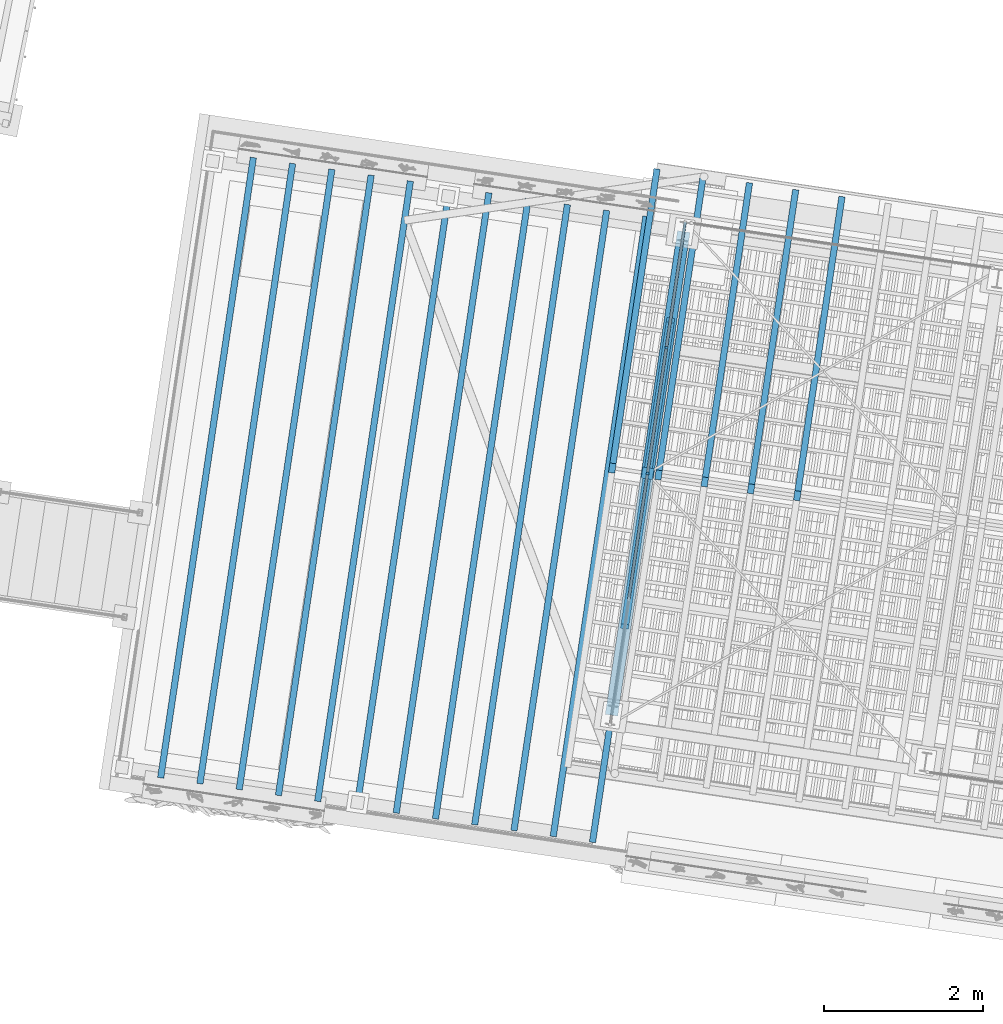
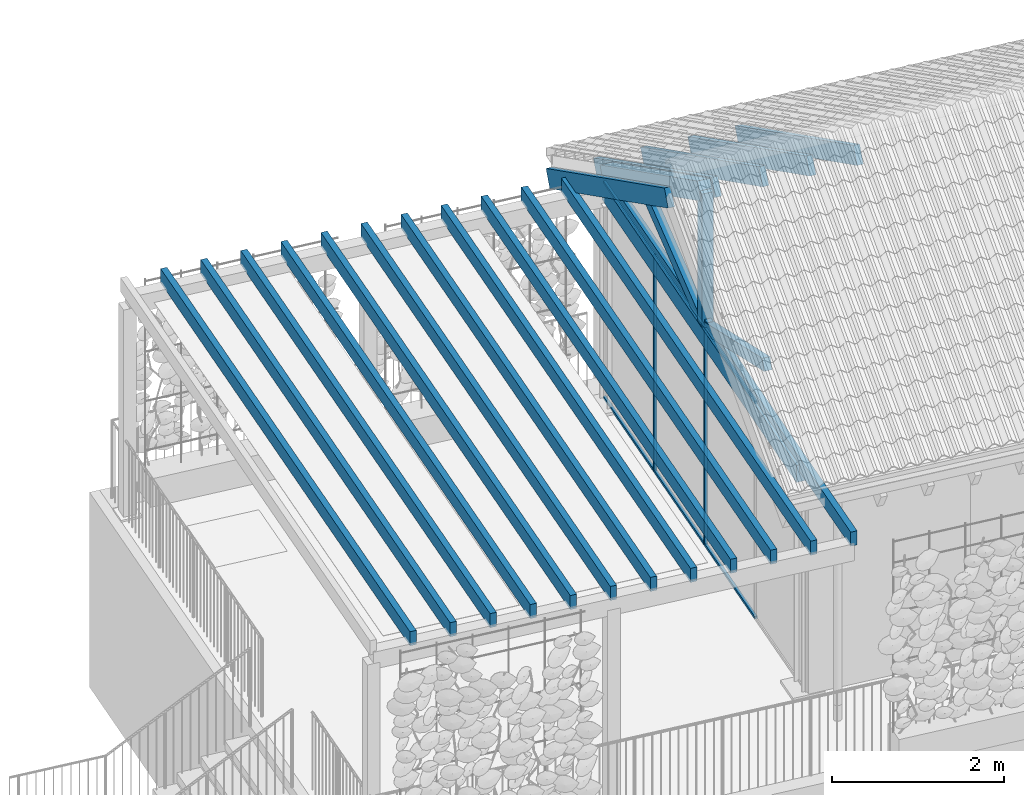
# One storey, part 25 of 128: 31 members, 1 beam, 2 elements without a shape of their own.
"""IFC4 building model written with IfcOpenShell, lengths in metres."""

import ifcopenshell
import ifcopenshell.guid

model = None  # the IFC model being written
_history = None  # IfcOwnerHistory: only IFC2X3 demands one
_inside = {}  # id of a spatial element -> (the spatial element, [elements in it])
_under = {}  # id of a project, library or spatial element -> (it, [spatial elements below it])
_declared = {}  # id of a project -> (the project, [libraries it declares])
_typed = {}  # id of a type object -> (the type object, [elements of that type])
_made_of = {}  # id of a material, layer set ... -> (it, [elements and type objects made of it])


def new_model(schema):
    """Start an empty IFC model of exactly this schema.

    Asked for "IFC4X3", IfcOpenShell would pick the latest addendum, in which some entities
    have other attributes; the version numbers below select the first issue.
    IFC2X3 requires an IfcOwnerHistory on every rooted entity: one is made here for all.
    """
    global model, _history
    if schema == "IFC4X3":
        model = ifcopenshell.file(schema_version=(4, 3, 0, 0))
    else:
        model = ifcopenshell.file(schema=schema)
    _inside.clear()
    _under.clear()
    _declared.clear()
    _typed.clear()
    _made_of.clear()
    _history = None
    if model.schema == "IFC2X3":
        org = make("IfcOrganization", Name="unknown")
        user = make(
            "IfcPersonAndOrganization",
            ThePerson=make("IfcPerson", FamilyName="unknown"),
            TheOrganization=org,
        )
        app = make(
            "IfcApplication",
            ApplicationDeveloper=org,
            Version="unknown",
            ApplicationFullName="unknown",
            ApplicationIdentifier="unknown",
        )
        _history = make(
            "IfcOwnerHistory",
            OwningUser=user,
            OwningApplication=app,
            ChangeAction="ADDED",
            CreationDate=0,
        )
    return model


def make(cls, **values):
    """One entity of the class cls with the attributes given. An attribute that is None is left unset."""
    return model.create_entity(
        cls, **{name: value for name, value in values.items() if value is not None}
    )


def rooted(cls, **values):
    """An entity with a GlobalId (a new one), such as an element, a storey or a relation."""
    return make(cls, GlobalId=ifcopenshell.guid.new(), OwnerHistory=_history, **values)


def si_unit(unit_type, name, prefix=None):
    """IfcSIUnit, for example si_unit("LENGTHUNIT", "METRE", prefix="MILLI")."""
    return make("IfcSIUnit", UnitType=unit_type, Prefix=prefix, Name=name)


def assignment(units):
    """IfcUnitAssignment: the units of a project."""
    return None if units is None else make("IfcUnitAssignment", Units=units)


def point(xyz):
    """IfcCartesianPoint."""
    return None if xyz is None else make("IfcCartesianPoint", Coordinates=xyz)


def direction(xyz):
    """IfcDirection."""
    return None if xyz is None else make("IfcDirection", DirectionRatios=xyz)


def frame(location, z_axis=None, x_axis=None):
    """IfcAxis2Placement3D, a coordinate frame: its origin and axes. An axis left out is left unset."""
    return make(
        "IfcAxis2Placement3D",
        Location=point(location),
        Axis=direction(z_axis),
        RefDirection=direction(x_axis),
    )


def origin_with_axes():
    """The frame at (0, 0, 0) with the z axis (0, 0, 1) and the x axis (1, 0, 0) written out."""
    return frame((0.0, 0.0, 0.0), z_axis=(0.0, 0.0, 1.0), x_axis=(1.0, 0.0, 0.0))


def place(relative_to, where):
    """IfcLocalPlacement: puts the frame where relative to a parent placement (None: the world)."""
    return make(
        "IfcLocalPlacement", PlacementRelTo=relative_to, RelativePlacement=where
    )


def context(
    kind, dimensions, precision=None, world=None, true_north=None, identifier=None
):
    """IfcGeometricRepresentationContext, for example the 3D "Model" context."""
    return make(
        "IfcGeometricRepresentationContext",
        ContextIdentifier=identifier,
        ContextType=kind,
        CoordinateSpaceDimension=dimensions,
        Precision=precision,
        WorldCoordinateSystem=world,
        TrueNorth=true_north,
    )


def subcontext(parent, identifier, kind, view, scale=None):
    """IfcGeometricRepresentationSubContext, for example "Body" below "Model"."""
    return make(
        "IfcGeometricRepresentationSubContext",
        ContextIdentifier=identifier,
        ContextType=kind,
        ParentContext=parent,
        TargetScale=scale,
        TargetView=view,
    )


def project(units=None, contexts=None):
    """IfcProject with its units and contexts."""
    return rooted(
        "IfcProject",
        Name="project",
        RepresentationContexts=contexts,
        UnitsInContext=assignment(units),
    )


def spatial(cls, under=None, at=None, **own):
    """A site, building, storey or space (cls), placed at a placement, below another one or the project."""
    s = rooted(cls, ObjectPlacement=at, **own)
    if under is not None:
        _under.setdefault(under.id(), (under, []))[1].append(s)
    return s


def profile(cls, at=None, kind="AREA", **sizes):
    """A parametric profile (cls). Its sizes go by their IFC names, for example OverallWidth=200.0."""
    return make(cls, ProfileType=kind, Position=at, **sizes)


def rectangle(**sizes):
    """IfcRectangleProfileDef."""
    return profile("IfcRectangleProfileDef", **sizes)


def extrude(swept, where, along, depth):
    """IfcExtrudedAreaSolid: the profile swept, set in the frame where, extruded along a direction by depth."""
    return make(
        "IfcExtrudedAreaSolid",
        SweptArea=swept,
        Position=where,
        ExtrudedDirection=direction(along),
        Depth=depth,
    )


def shape(context_of_items, identifier, shape_type, items):
    """IfcShapeRepresentation: the items that make up one representation, for example the "Body"."""
    return make(
        "IfcShapeRepresentation",
        ContextOfItems=context_of_items,
        RepresentationIdentifier=identifier,
        RepresentationType=shape_type,
        Items=items,
    )


def material(Name=None, Category=None):
    """IfcMaterial."""
    return make("IfcMaterial", Name=Name, Category=Category)


def material_profile(
    of_material, cross_section, Name=None, Category=None, Priority=None
):
    """IfcMaterialProfile: a cross section and its material."""
    return make(
        "IfcMaterialProfile",
        Name=Name,
        Material=of_material,
        Profile=cross_section,
        Priority=Priority,
        Category=Category,
    )


def profile_set(profiles, Name=None, composite=None):
    """IfcMaterialProfileSet."""
    return make(
        "IfcMaterialProfileSet",
        Name=Name,
        MaterialProfiles=profiles,
        CompositeProfile=composite,
    )


def profile_usage(for_profile_set, cardinal=None, extent=None):
    """IfcMaterialProfileSetUsage: how a profile set lies along its element."""
    return make(
        "IfcMaterialProfileSetUsage",
        ForProfileSet=for_profile_set,
        CardinalPoint=cardinal,
        ReferenceExtent=extent,
    )


def made_of(thing, what):
    """Note that an element or type object is made of a material, layer set ...; save() writes the relation."""
    if what is not None:
        _made_of.setdefault(what.id(), (what, []))[1].append(thing)
    return thing


def type_object(cls, material=None, **own):
    """A type object (cls), such as IfcWallType, which elements share."""
    return made_of(rooted(cls, **own), material)


def element(
    cls,
    number,
    at=None,
    inside=None,
    cuts=None,
    type_object=None,
    material=None,
    context=None,
    identifier="Body",
    shape_type=None,
    held_by="IfcProductDefinitionShape",
    body=None,
    shapes=None,
    **own,
):
    """One element of the class cls, such as IfcWall. Its Tag is "e" and its number.

    at: its placement. inside: the storey or other place that contains it. cuts: it is an
    opening in that element (IfcRelVoidsElement). A single representation is given by context,
    identifier, shape_type and body (its items); several are given by shapes. held_by: the class
    of the entity that holds the representations. save() writes the other relations.
    """
    e = rooted(cls, Tag="e%d" % number, ObjectPlacement=at, **own)
    if body is not None:
        shapes = [shape(context, identifier, shape_type, body)]
    if shapes is not None:
        e.Representation = make(held_by, Representations=shapes)
    if inside is not None:
        _inside.setdefault(inside.id(), (inside, []))[1].append(e)
    if cuts is not None:
        rooted(
            "IfcRelVoidsElement", RelatingBuildingElement=cuts, RelatedOpeningElement=e
        )
    if type_object is not None:
        _typed.setdefault(type_object.id(), (type_object, []))[1].append(e)
    return made_of(e, material)


def aggregate(whole, parts):
    """IfcRelAggregates: a whole, such as a stair, and the parts it consists of."""
    return rooted("IfcRelAggregates", RelatingObject=whole, RelatedObjects=parts)


def save(model, path):
    """Write the relations noted so far, then the file.

    IfcRelAggregates (storeys below a building ...), IfcRelContainedInSpatialStructure (elements
    in a storey), IfcRelDefinesByType, IfcRelAssociatesMaterial and IfcRelDeclares: one each for
    every whole, place, type object, material and project.
    """
    for whole, parts in _under.values():
        aggregate(whole, parts)
    for where, things in _inside.values():
        rooted(
            "IfcRelContainedInSpatialStructure",
            RelatedElements=things,
            RelatingStructure=where,
        )
    for kind, things in _typed.values():
        rooted("IfcRelDefinesByType", RelatedObjects=things, RelatingType=kind)
    for what, things in _made_of.values():
        rooted("IfcRelAssociatesMaterial", RelatedObjects=things, RelatingMaterial=what)
    for by, libraries in _declared.values():
        rooted("IfcRelDeclares", RelatingContext=by, RelatedDefinitions=libraries)
    model.write(path)


model = new_model("IFC4")

# Units and contexts
model_context = context("Model", 3, precision=1e-05, world=origin_with_axes(), true_north=direction((0.0, 1.0)))
body_context = subcontext(model_context, "Body", "Model", "MODEL_VIEW")
ifc_project = project(units=[si_unit("VOLUMEUNIT", "CUBIC_METRE"), si_unit("LENGTHUNIT", "METRE"), si_unit("AREAUNIT", "SQUARE_METRE")], contexts=[model_context])

# Site, building, storey
site_placement = place(None, origin_with_axes())
site = spatial("IfcSite", under=ifc_project, at=site_placement, Name="Lares · Rua das Mercês · artigo 4771")
building_placement = place(site_placement, frame((15.0, 9.7, 13.9), z_axis=(0.0, 0.0, 1.0), x_axis=(0.989015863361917, -0.147809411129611, 0.0)))
building = spatial("IfcBuilding", under=site, at=building_placement, Name="Casa Sobreposta")
storey_placement = place(building_placement, origin_with_axes())
storey = spatial("IfcBuildingStorey", under=building, at=storey_placement, Name="00 · Habitação e estacionamento", Elevation=13.9)

# Members
ifc_material_1 = material(Name="Aço pintado / Stahl lackiert", Category="steel")
ifc_material_profile_1 = material_profile(ifc_material_1, rectangle(XDim=0.035, YDim=0.035))
ifc_profile_set_1 = profile_set([ifc_material_profile_1], Name="R0.035")
ifc_profile_usage_1 = profile_usage(ifc_profile_set_1)
member_type_1 = type_object("IfcMemberType", Name="R0.035 / steel", PredefinedType="NOTDEFINED", material=ifc_profile_set_1)
member_1_placement = place(storey_placement, frame((0.0, 3.2, 0.0), z_axis=(0.0, 0.0, 1.0), x_axis=(1.0, 0.0, 0.0)))
element("IfcMember", 1, at=member_1_placement, inside=storey, type_object=member_type_1, material=ifc_profile_usage_1, context=body_context, shape_type="SweptSolid", body=[
    extrude(rectangle(XDim=0.035, YDim=0.035), origin_with_axes(), (0.0, 0.0, 1.0), 3.05),
])
ifc_profile_usage_2 = profile_usage(ifc_profile_set_1)
member_2_placement = place(storey_placement, frame((0.0, 1.6, 0.0), z_axis=(0.0, 1.0, 0.0), x_axis=(1.0, 0.0, 0.0)))
element("IfcMember", 2, at=member_2_placement, inside=storey, type_object=member_type_1, material=ifc_profile_usage_2, Name="Fachada poente integralmente envidraçada · módulo 2 · travessa", context=body_context, shape_type="SweptSolid", body=[
    extrude(rectangle(XDim=0.035, YDim=0.035), origin_with_axes(), (0.0, 0.0, 1.0), 1.6),
])
ifc_profile_usage_3 = profile_usage(ifc_profile_set_1)
member_3_placement = place(storey_placement, frame((0.0, 1.6, 3.05), z_axis=(0.0, 1.0, 0.0), x_axis=(1.0, 0.0, 0.0)))
element("IfcMember", 3, at=member_3_placement, inside=storey, type_object=member_type_1, material=ifc_profile_usage_3, Name="Fachada poente integralmente envidraçada · módulo 2 · travessa", context=body_context, shape_type="SweptSolid", body=[
    extrude(rectangle(XDim=0.035, YDim=0.035), origin_with_axes(), (0.0, 0.0, 1.0), 1.6),
])
ifc_profile_usage_4 = profile_usage(ifc_profile_set_1)
member_4_placement = place(storey_placement, frame((0.0, 3.2, 0.0), z_axis=(0.0, 0.0, 1.0), x_axis=(1.0, 0.0, 0.0)))
element("IfcMember", 4, at=member_4_placement, inside=storey, type_object=member_type_1, material=ifc_profile_usage_4, context=body_context, shape_type="SweptSolid", body=[
    extrude(rectangle(XDim=0.035, YDim=0.035), origin_with_axes(), (0.0, 0.0, 1.0), 3.05),
])
ifc_profile_usage_5 = profile_usage(ifc_profile_set_1)
member_5_placement = place(storey_placement, frame((0.0, 4.8, 0.0), z_axis=(0.0, 0.0, 1.0), x_axis=(1.0, 0.0, 0.0)))
element("IfcMember", 5, at=member_5_placement, inside=storey, type_object=member_type_1, material=ifc_profile_usage_5, context=body_context, shape_type="SweptSolid", body=[
    extrude(rectangle(XDim=0.035, YDim=0.035), origin_with_axes(), (0.0, 0.0, 1.0), 3.05),
])
ifc_profile_usage_6 = profile_usage(ifc_profile_set_1)
member_6_placement = place(storey_placement, frame((0.0, 3.2, 0.0), z_axis=(0.0, 1.0, 0.0), x_axis=(1.0, 0.0, 0.0)))
element("IfcMember", 6, at=member_6_placement, inside=storey, type_object=member_type_1, material=ifc_profile_usage_6, Name="Fachada poente integralmente envidraçada · módulo 3 · travessa", context=body_context, shape_type="SweptSolid", body=[
    extrude(rectangle(XDim=0.035, YDim=0.035), origin_with_axes(), (0.0, 0.0, 1.0), 1.6),
])
ifc_profile_usage_7 = profile_usage(ifc_profile_set_1)
member_7_placement = place(storey_placement, frame((0.0, 3.2, 3.05), z_axis=(0.0, 1.0, 0.0), x_axis=(1.0, 0.0, 0.0)))
element("IfcMember", 7, at=member_7_placement, inside=storey, type_object=member_type_1, material=ifc_profile_usage_7, Name="Fachada poente integralmente envidraçada · módulo 3 · travessa", context=body_context, shape_type="SweptSolid", body=[
    extrude(rectangle(XDim=0.035, YDim=0.035), origin_with_axes(), (0.0, 0.0, 1.0), 1.6),
])
ifc_profile_usage_8 = profile_usage(ifc_profile_set_1)
member_8_placement = place(storey_placement, frame((0.0, 4.8, 0.0), z_axis=(0.0, 0.0, 1.0), x_axis=(1.0, 0.0, 0.0)))
element("IfcMember", 8, at=member_8_placement, inside=storey, type_object=member_type_1, material=ifc_profile_usage_8, context=body_context, shape_type="SweptSolid", body=[
    extrude(rectangle(XDim=0.035, YDim=0.035), origin_with_axes(), (0.0, 0.0, 1.0), 3.05),
])
ifc_profile_usage_9 = profile_usage(ifc_profile_set_1)
member_9_placement = place(storey_placement, frame((0.0, 4.8, 0.0), z_axis=(0.0, 1.0, 0.0), x_axis=(1.0, 0.0, 0.0)))
element("IfcMember", 9, at=member_9_placement, inside=storey, type_object=member_type_1, material=ifc_profile_usage_9, Name="Fachada poente integralmente envidraçada · módulo 4 · travessa", context=body_context, shape_type="SweptSolid", body=[
    extrude(rectangle(XDim=0.035, YDim=0.035), origin_with_axes(), (0.0, 0.0, 1.0), 1.6),
])
ifc_profile_usage_10 = profile_usage(ifc_profile_set_1)
member_10_placement = place(storey_placement, frame((0.0, 4.8, 3.05), z_axis=(0.0, 1.0, 0.0), x_axis=(1.0, 0.0, 0.0)))
element("IfcMember", 10, at=member_10_placement, inside=storey, type_object=member_type_1, material=ifc_profile_usage_10, Name="Fachada poente integralmente envidraçada · módulo 4 · travessa", context=body_context, shape_type="SweptSolid", body=[
    extrude(rectangle(XDim=0.035, YDim=0.035), origin_with_axes(), (0.0, 0.0, 1.0), 1.6),
])

# Roof, beam, members
ifc_material_2 = material(Name="Madeira / Bauholz", Category="wood")
roof_placement = place(storey_placement, origin_with_axes())
roof = element("IfcRoof", 11, at=roof_placement, inside=storey, material=ifc_material_2, Name="Cobertura de telha · duas águas 30 graus", PredefinedType="GABLE_ROOF")
ifc_material_profile_2 = material_profile(ifc_material_2, rectangle(XDim=0.16, YDim=0.24))
ifc_profile_set_2 = profile_set([ifc_material_profile_2], Name="TIMBER0.160x0.240")
ifc_profile_usage_11 = profile_usage(ifc_profile_set_2)
beam_type = type_object("IfcBeamType", Name="TIMBER0.160x0.240 / timber", PredefinedType="NOTDEFINED", material=ifc_profile_set_2)
beam_placement = place(roof_placement, frame((0.0, 0.12, 3.02), z_axis=(0.0, 1.0, 0.0), x_axis=(1.0, 0.0, 0.0)))
beam = element("IfcBeam", 12, at=beam_placement, type_object=beam_type, material=ifc_profile_usage_11, Name="Tesoura · tirante inferior", context=body_context, shape_type="SweptSolid", body=[
    extrude(rectangle(XDim=0.16, YDim=0.24), origin_with_axes(), (0.0, 0.0, 1.0), 6.16),
])
ifc_material_profile_3 = material_profile(ifc_material_2, rectangle(XDim=0.16, YDim=0.24))
ifc_profile_set_3 = profile_set([ifc_material_profile_3], Name="TIMBER0.160x0.240")
ifc_profile_usage_12 = profile_usage(ifc_profile_set_3)
member_type_2 = type_object("IfcMemberType", Name="TIMBER0.160x0.240 / timber", PredefinedType="NOTDEFINED", material=ifc_profile_set_3)
member_11_placement = place(roof_placement, frame((0.0, 3.2, 5.0225208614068), z_axis=(0.0, 0.866025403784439, -0.5), x_axis=(1.0, 0.0, 0.0)))
member_11 = element("IfcMember", 13, at=member_11_placement, type_object=member_type_2, material=ifc_profile_usage_12, Name="Tesoura · perna", context=body_context, shape_type="SweptSolid", body=[
    extrude(rectangle(XDim=0.16, YDim=0.24), origin_with_axes(), (0.0, 0.0, 1.0), 3.5564776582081),
])
ifc_material_profile_4 = material_profile(ifc_material_2, rectangle(XDim=0.14, YDim=0.14))
ifc_profile_set_4 = profile_set([ifc_material_profile_4], Name="TIMBER0.140x0.140")
ifc_profile_usage_13 = profile_usage(ifc_profile_set_4)
member_type_3 = type_object("IfcMemberType", Name="TIMBER0.140x0.140 / timber", PredefinedType="NOTDEFINED", material=ifc_profile_set_4)
member_12_placement = place(roof_placement, frame((0.0, 3.2, 3.02), z_axis=(0.0, 0.0, 1.0), x_axis=(1.0, 0.0, 0.0)))
member_12 = element("IfcMember", 14, at=member_12_placement, type_object=member_type_3, material=ifc_profile_usage_13, Name="Tesoura · pendural", context=body_context, shape_type="SweptSolid", body=[
    extrude(rectangle(XDim=0.14, YDim=0.14), origin_with_axes(), (0.0, 0.0, 1.0), 2.0025208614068),
])
ifc_material_profile_5 = material_profile(ifc_material_2, rectangle(XDim=0.1, YDim=0.16))
ifc_profile_set_5 = profile_set([ifc_material_profile_5], Name="TIMBER0.100x0.160")
ifc_profile_usage_14 = profile_usage(ifc_profile_set_5)
member_type_4 = type_object("IfcMemberType", Name="TIMBER0.100x0.160 / timber", PredefinedType="NOTDEFINED", material=ifc_profile_set_5)
member_13_placement = place(roof_placement, frame((0.0, 3.2, 3.1), z_axis=(0.0, -0.937832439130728, 0.347088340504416), x_axis=(-1.0, 0.0, 0.0)))
member_13 = element("IfcMember", 15, at=member_13_placement, type_object=member_type_4, material=ifc_profile_usage_14, Name="Tesoura · escora", context=body_context, shape_type="SweptSolid", body=[
    extrude(rectangle(XDim=0.1, YDim=0.16), origin_with_axes(), (0.0, 0.0, 1.0), 2.07926268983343),
])
ifc_profile_usage_15 = profile_usage(ifc_profile_set_5)
member_14_placement = place(roof_placement, frame((0.0, 3.2, 3.1), z_axis=(0.0, 0.937832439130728, 0.347088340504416), x_axis=(1.0, 0.0, 0.0)))
member_14 = element("IfcMember", 16, at=member_14_placement, type_object=member_type_4, material=ifc_profile_usage_15, Name="Tesoura · escora", context=body_context, shape_type="SweptSolid", body=[
    extrude(rectangle(XDim=0.1, YDim=0.16), origin_with_axes(), (0.0, 0.0, 1.0), 2.07926268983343),
])
ifc_material_profile_6 = material_profile(ifc_material_2, rectangle(XDim=0.08, YDim=0.24))
ifc_profile_set_6 = profile_set([ifc_material_profile_6], Name="TIMBER0.080x0.240")
ifc_profile_usage_16 = profile_usage(ifc_profile_set_6)
member_type_5 = type_object("IfcMemberType", Name="TIMBER0.080x0.240 / timber", PredefinedType="NOTDEFINED", material=ifc_profile_set_6)
member_15_placement = place(roof_placement, frame((-0.45, 3.2, 5.0285208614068), z_axis=(0.0, 0.866025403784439, -0.5), x_axis=(1.0, 0.0, 0.0)))
member_15 = element("IfcMember", 17, at=member_15_placement, type_object=member_type_5, material=ifc_profile_usage_16, Name="Cobertura · caibro", context=body_context, shape_type="SweptSolid", body=[
    extrude(rectangle(XDim=0.08, YDim=0.24), origin_with_axes(), (0.0, 0.0, 1.0), 4.33012701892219),
])
ifc_profile_usage_17 = profile_usage(ifc_profile_set_6)
member_16_placement = place(roof_placement, frame((0.139056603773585, 3.2, 5.0285208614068), z_axis=(0.0, 0.866025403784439, -0.5), x_axis=(1.0, 0.0, 0.0)))
member_16 = element("IfcMember", 18, at=member_16_placement, type_object=member_type_5, material=ifc_profile_usage_17, Name="Cobertura · caibro", context=body_context, shape_type="SweptSolid", body=[
    extrude(rectangle(XDim=0.08, YDim=0.24), origin_with_axes(), (0.0, 0.0, 1.0), 4.33012701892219),
])
ifc_profile_usage_18 = profile_usage(ifc_profile_set_6)
member_17_placement = place(roof_placement, frame((0.72811320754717, 3.2, 5.0285208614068), z_axis=(0.0, 0.866025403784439, -0.5), x_axis=(1.0, 0.0, 0.0)))
member_17 = element("IfcMember", 19, at=member_17_placement, type_object=member_type_5, material=ifc_profile_usage_18, Name="Cobertura · caibro", context=body_context, shape_type="SweptSolid", body=[
    extrude(rectangle(XDim=0.08, YDim=0.24), origin_with_axes(), (0.0, 0.0, 1.0), 4.33012701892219),
])
ifc_profile_usage_19 = profile_usage(ifc_profile_set_6)
member_18_placement = place(roof_placement, frame((1.31716981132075, 3.2, 5.0285208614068), z_axis=(0.0, 0.866025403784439, -0.5), x_axis=(1.0, 0.0, 0.0)))
member_18 = element("IfcMember", 20, at=member_18_placement, type_object=member_type_5, material=ifc_profile_usage_19, Name="Cobertura · caibro", context=body_context, shape_type="SweptSolid", body=[
    extrude(rectangle(XDim=0.08, YDim=0.24), origin_with_axes(), (0.0, 0.0, 1.0), 4.33012701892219),
])
ifc_profile_usage_20 = profile_usage(ifc_profile_set_6)
member_19_placement = place(roof_placement, frame((1.90622641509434, 3.2, 5.0285208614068), z_axis=(0.0, 0.866025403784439, -0.5), x_axis=(1.0, 0.0, 0.0)))
member_19 = element("IfcMember", 21, at=member_19_placement, type_object=member_type_5, material=ifc_profile_usage_20, Name="Cobertura · caibro", context=body_context, shape_type="SweptSolid", body=[
    extrude(rectangle(XDim=0.08, YDim=0.24), origin_with_axes(), (0.0, 0.0, 1.0), 4.33012701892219),
])
aggregate(roof, [beam, member_11, member_12, member_13, member_14, member_15, member_16, member_17, member_18, member_19])

# Assembly, members
assembly_placement = place(storey_placement, origin_with_axes())
assembly = element("IfcElementAssembly", 22, at=assembly_placement, inside=storey, Name="Pérgola de madeira · pátio 6 m", ObjectType="TIMBER_PATIO_PERGOLA", PredefinedType="USERDEFINED")
ifc_material_profile_7 = material_profile(ifc_material_2, rectangle(XDim=0.08, YDim=0.2))
ifc_profile_set_7 = profile_set([ifc_material_profile_7], Name="TIMBER0.080x0.200")
ifc_profile_usage_21 = profile_usage(ifc_profile_set_7)
member_type_6 = type_object("IfcMemberType", Name="TIMBER0.080x0.200 / timber", PredefinedType="NOTDEFINED", material=ifc_profile_set_7)
member_20_placement = place(assembly_placement, frame((-5.5, -1.5, 3.14), z_axis=(0.0, 1.0, 0.0), x_axis=(1.0, 0.0, 0.0)))
member_20 = element("IfcMember", 23, at=member_20_placement, type_object=member_type_6, material=ifc_profile_usage_21, Name="Pérgola · travessa", context=body_context, shape_type="SweptSolid", body=[
    extrude(rectangle(XDim=0.08, YDim=0.2), origin_with_axes(), (0.0, 0.0, 1.0), 7.9),
])
ifc_profile_usage_22 = profile_usage(ifc_profile_set_7)
member_21_placement = place(assembly_placement, frame((-5.0, -1.5, 3.14), z_axis=(0.0, 1.0, 0.0), x_axis=(1.0, 0.0, 0.0)))
member_21 = element("IfcMember", 24, at=member_21_placement, type_object=member_type_6, material=ifc_profile_usage_22, Name="Pérgola · travessa", context=body_context, shape_type="SweptSolid", body=[
    extrude(rectangle(XDim=0.08, YDim=0.2), origin_with_axes(), (0.0, 0.0, 1.0), 7.9),
])
ifc_profile_usage_23 = profile_usage(ifc_profile_set_7)
member_22_placement = place(assembly_placement, frame((-4.5, -1.5, 3.14), z_axis=(0.0, 1.0, 0.0), x_axis=(1.0, 0.0, 0.0)))
member_22 = element("IfcMember", 25, at=member_22_placement, type_object=member_type_6, material=ifc_profile_usage_23, Name="Pérgola · travessa", context=body_context, shape_type="SweptSolid", body=[
    extrude(rectangle(XDim=0.08, YDim=0.2), origin_with_axes(), (0.0, 0.0, 1.0), 7.9),
])
ifc_profile_usage_24 = profile_usage(ifc_profile_set_7)
member_23_placement = place(assembly_placement, frame((-4.0, -1.5, 3.14), z_axis=(0.0, 1.0, 0.0), x_axis=(1.0, 0.0, 0.0)))
member_23 = element("IfcMember", 26, at=member_23_placement, type_object=member_type_6, material=ifc_profile_usage_24, Name="Pérgola · travessa", context=body_context, shape_type="SweptSolid", body=[
    extrude(rectangle(XDim=0.08, YDim=0.2), origin_with_axes(), (0.0, 0.0, 1.0), 7.9),
])
ifc_profile_usage_25 = profile_usage(ifc_profile_set_7)
member_24_placement = place(assembly_placement, frame((-3.5, -1.5, 3.14), z_axis=(0.0, 1.0, 0.0), x_axis=(1.0, 0.0, 0.0)))
member_24 = element("IfcMember", 27, at=member_24_placement, type_object=member_type_6, material=ifc_profile_usage_25, Name="Pérgola · travessa", context=body_context, shape_type="SweptSolid", body=[
    extrude(rectangle(XDim=0.08, YDim=0.2), origin_with_axes(), (0.0, 0.0, 1.0), 7.9),
])
ifc_profile_usage_26 = profile_usage(ifc_profile_set_7)
member_25_placement = place(assembly_placement, frame((-3.0, -1.5, 3.14), z_axis=(0.0, 1.0, 0.0), x_axis=(1.0, 0.0, 0.0)))
member_25 = element("IfcMember", 28, at=member_25_placement, type_object=member_type_6, material=ifc_profile_usage_26, Name="Pérgola · travessa", context=body_context, shape_type="SweptSolid", body=[
    extrude(rectangle(XDim=0.08, YDim=0.2), origin_with_axes(), (0.0, 0.0, 1.0), 7.9),
])
ifc_profile_usage_27 = profile_usage(ifc_profile_set_7)
member_26_placement = place(assembly_placement, frame((-2.5, -1.5, 3.14), z_axis=(0.0, 1.0, 0.0), x_axis=(1.0, 0.0, 0.0)))
member_26 = element("IfcMember", 29, at=member_26_placement, type_object=member_type_6, material=ifc_profile_usage_27, Name="Pérgola · travessa", context=body_context, shape_type="SweptSolid", body=[
    extrude(rectangle(XDim=0.08, YDim=0.2), origin_with_axes(), (0.0, 0.0, 1.0), 7.9),
])
ifc_profile_usage_28 = profile_usage(ifc_profile_set_7)
member_27_placement = place(assembly_placement, frame((-2.0, -1.5, 3.14), z_axis=(0.0, 1.0, 0.0), x_axis=(1.0, 0.0, 0.0)))
member_27 = element("IfcMember", 30, at=member_27_placement, type_object=member_type_6, material=ifc_profile_usage_28, Name="Pérgola · travessa", context=body_context, shape_type="SweptSolid", body=[
    extrude(rectangle(XDim=0.08, YDim=0.2), origin_with_axes(), (0.0, 0.0, 1.0), 7.9),
])
ifc_profile_usage_29 = profile_usage(ifc_profile_set_7)
member_28_placement = place(assembly_placement, frame((-1.5, -1.5, 3.14), z_axis=(0.0, 1.0, 0.0), x_axis=(1.0, 0.0, 0.0)))
member_28 = element("IfcMember", 31, at=member_28_placement, type_object=member_type_6, material=ifc_profile_usage_29, Name="Pérgola · travessa", context=body_context, shape_type="SweptSolid", body=[
    extrude(rectangle(XDim=0.08, YDim=0.2), origin_with_axes(), (0.0, 0.0, 1.0), 7.9),
])
ifc_profile_usage_30 = profile_usage(ifc_profile_set_7)
member_29_placement = place(assembly_placement, frame((-1.0, -1.5, 3.14), z_axis=(0.0, 1.0, 0.0), x_axis=(1.0, 0.0, 0.0)))
member_29 = element("IfcMember", 32, at=member_29_placement, type_object=member_type_6, material=ifc_profile_usage_30, Name="Pérgola · travessa", context=body_context, shape_type="SweptSolid", body=[
    extrude(rectangle(XDim=0.08, YDim=0.2), origin_with_axes(), (0.0, 0.0, 1.0), 7.9),
])
ifc_profile_usage_31 = profile_usage(ifc_profile_set_7)
member_30_placement = place(assembly_placement, frame((-0.5, -1.5, 3.14), z_axis=(0.0, 1.0, 0.0), x_axis=(1.0, 0.0, 0.0)))
member_30 = element("IfcMember", 33, at=member_30_placement, type_object=member_type_6, material=ifc_profile_usage_31, Name="Pérgola · travessa", context=body_context, shape_type="SweptSolid", body=[
    extrude(rectangle(XDim=0.08, YDim=0.2), origin_with_axes(), (0.0, 0.0, 1.0), 7.9),
])
ifc_profile_usage_32 = profile_usage(ifc_profile_set_7)
member_31_placement = place(assembly_placement, frame((0.0, -1.5, 3.14), z_axis=(0.0, 1.0, 0.0), x_axis=(1.0, 0.0, 0.0)))
member_31 = element("IfcMember", 34, at=member_31_placement, type_object=member_type_6, material=ifc_profile_usage_32, Name="Pérgola · travessa", context=body_context, shape_type="SweptSolid", body=[
    extrude(rectangle(XDim=0.08, YDim=0.2), origin_with_axes(), (0.0, 0.0, 1.0), 7.9),
])
aggregate(assembly, [member_20, member_21, member_22, member_23, member_24, member_25, member_26, member_27, member_28, member_29, member_30, member_31])

save(model, "model.ifc")
